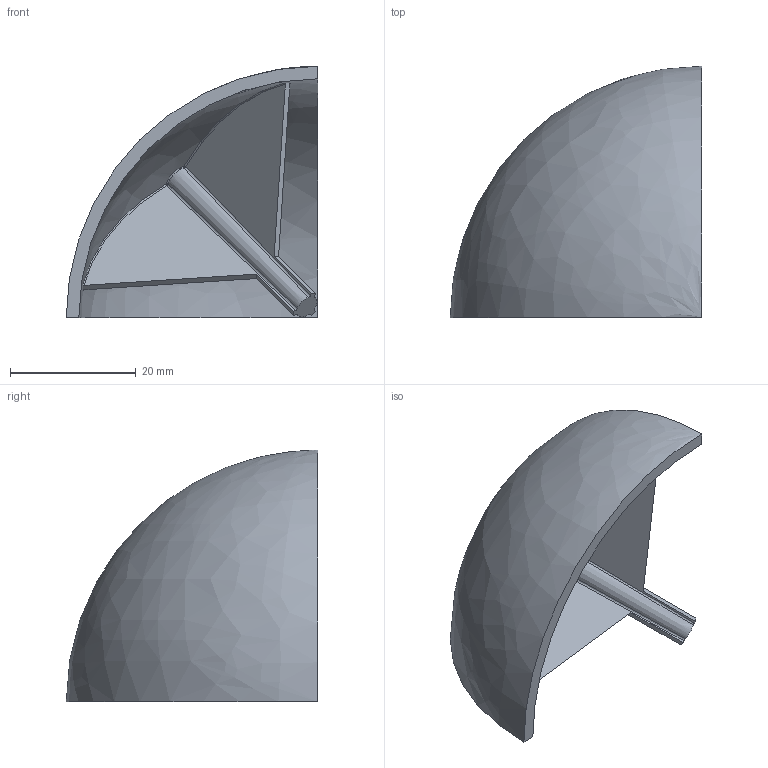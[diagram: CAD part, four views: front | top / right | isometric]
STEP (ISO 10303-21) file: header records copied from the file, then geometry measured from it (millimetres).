
FILE_DESCRIPTION (( 'STEP AP203' ), '1' );
FILE_NAME ('DEC4040R.STEP', '2022-06-24T03:56:31', ( '' ), ( '' ), 'SwSTEP 2.0', 'SolidWorks 2017', '' );
FILE_SCHEMA (( 'CONFIG_CONTROL_DESIGN' ));
Length unit declared in the file: millimetre
Products named in the file (1): DEC4040R
Bounding box: 40 x 40 x 40 mm (x, y, z)
Volume: 6414.8 mm3; surface area: 7642.9 mm2
Topology: 1 solids, 1 shells, 44 faces, 113 edges, 70 vertices
Faces by surface type: plane 16, bspline 14, torus 11, cone 3
Entity records: 1898 total; most frequent: CARTESIAN_POINT 887, ORIENTED_EDGE 222, DIRECTION 151, EDGE_CURVE 111, VERTEX_POINT 70, AXIS2_PLACEMENT_3D 62, B_SPLINE_CURVE_WITH_KNOTS 53, EDGE_LOOP 45
